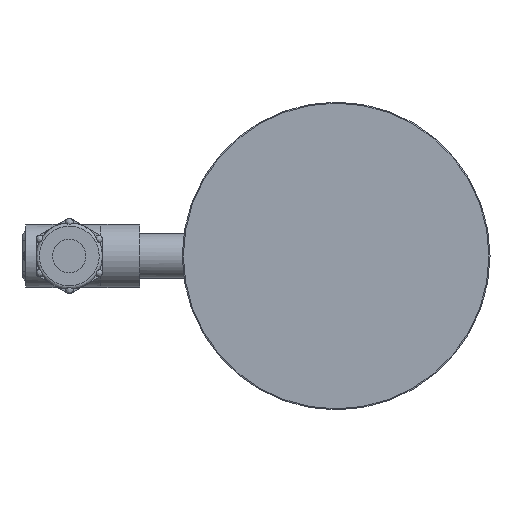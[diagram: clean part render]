
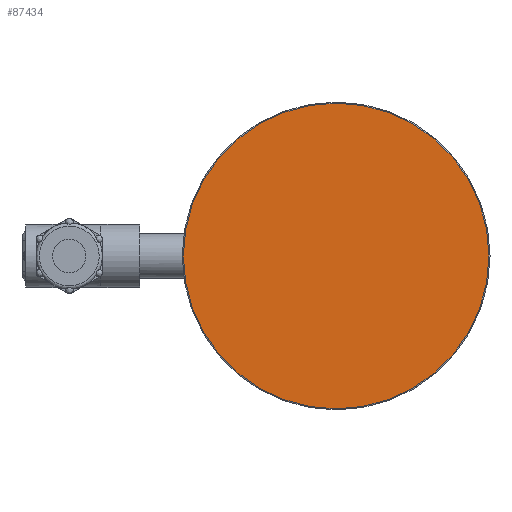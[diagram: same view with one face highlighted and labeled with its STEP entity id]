
A CAD part, left-side view. The second image highlights one B-rep face of the part: STEP entity #87434.
In plain terms, the highlighted planar face has unit normal (-1, 0, 0).
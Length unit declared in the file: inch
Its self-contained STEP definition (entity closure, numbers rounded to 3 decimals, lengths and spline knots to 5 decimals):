
#4364 = EDGE_CURVE ( 'NONE', #21461, #21461, #113200, .T. ) ;
#14728 = DIRECTION ( 'NONE',  ( 0., 0., -1. ) ) ;
#15453 = AXIS2_PLACEMENT_3D ( 'NONE', #101458, #74824, #90917 ) ;
#21461 = VERTEX_POINT ( 'NONE', #87102 ) ;
#22796 = CARTESIAN_POINT ( 'NONE',  ( 1.4947, 0., 0. ) ) ;
#43869 = FACE_OUTER_BOUND ( 'NONE', #82496, .T. ) ;
#46332 = PLANE ( 'NONE',  #15453 ) ;
#62991 = DIRECTION ( 'NONE',  ( -1., 0., 0. ) ) ;
#74824 = DIRECTION ( 'NONE',  ( -1., 0., 0. ) ) ;
#82496 = EDGE_LOOP ( 'NONE', ( #87481 ) ) ;
#87102 = CARTESIAN_POINT ( 'NONE',  ( 1.4947, 0., -2.8775 ) ) ;
#87434 = ADVANCED_FACE ( 'NONE', ( #43869 ), #46332, .T. ) ;
#87481 = ORIENTED_EDGE ( 'NONE', *, *, #4364, .T. ) ;
#90917 = DIRECTION ( 'NONE',  ( 0., 0., -1. ) ) ;
#101200 = AXIS2_PLACEMENT_3D ( 'NONE', #22796, #62991, #14728 ) ;
#101458 = CARTESIAN_POINT ( 'NONE',  ( 1.4947, -2.8975, 0. ) ) ;
#113200 = CIRCLE ( 'NONE', #101200, 2.8775 ) ;
